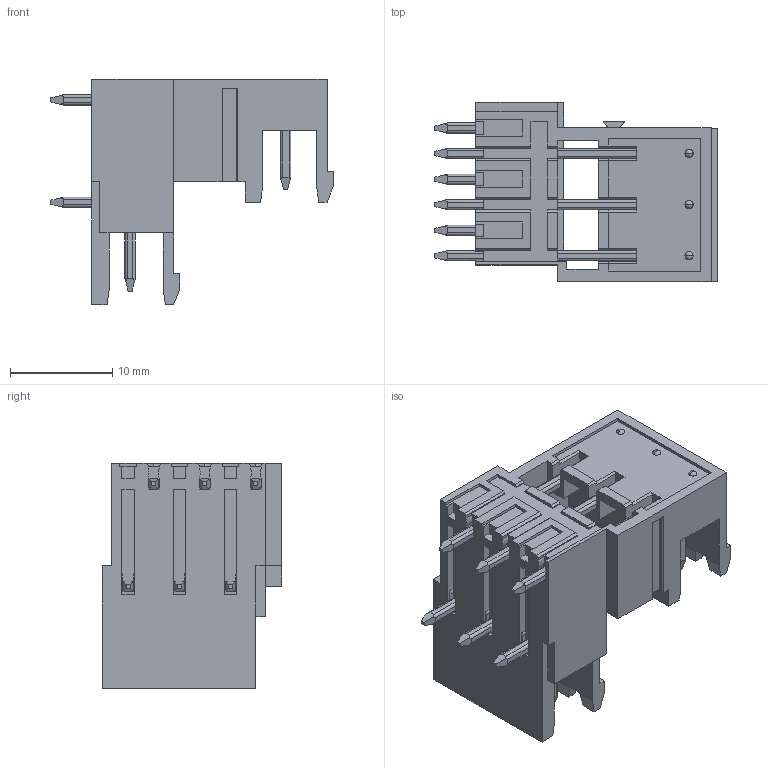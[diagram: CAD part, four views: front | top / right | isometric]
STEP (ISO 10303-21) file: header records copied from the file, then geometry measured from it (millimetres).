
FILE_DESCRIPTION((''),'2;1');
FILE_NAME('3','2019-05-09T',('zhenbing.lai'),(''),'CREO PARAMETRIC BY PTC INC, 2016260','CREO PARAMETRIC BY PTC INC, 2016260','');
FILE_SCHEMA(('CONFIG_CONTROL_DESIGN'));
Length unit declared in the file: millimetre
Products named in the file (1): 3
Bounding box: 27.6 x 17.5 x 22 mm (x, y, z)
Volume: 3107.8 mm3; surface area: 3213.8 mm2
Topology: 1 solids, 1 shells, 470 faces, 1364 edges, 896 vertices
Faces by surface type: plane 372, cylinder 86, sphere 6, cone 6
Entity records: 15534 total; most frequent: CARTESIAN_POINT 3187, ORIENTED_EDGE 2716, DIRECTION 2345, EDGE_CURVE 1358, VECTOR 1095, LINE 1095, VERTEX_POINT 896, AXIS2_PLACEMENT_3D 625
